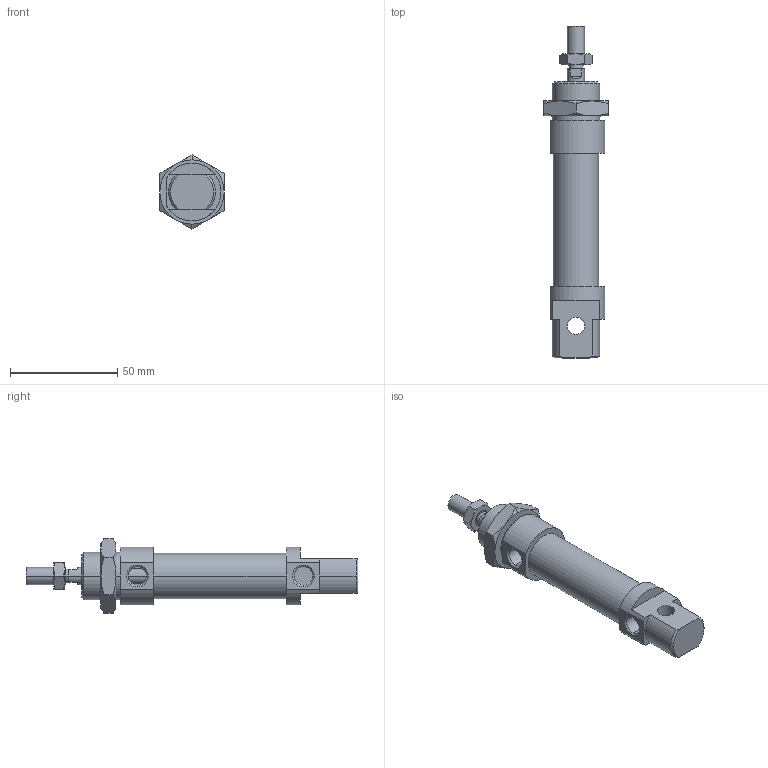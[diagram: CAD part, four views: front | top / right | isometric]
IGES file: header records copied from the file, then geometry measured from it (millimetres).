
Global section: file name: No Iges File Name specified; native system: AutoDesk Inventor R6.0; preprocessor: AutoDesk Inventor Iges Exporter R6.0; author: No Author specified; organization: No Organization specified; date: 20030407.191306; units: millimetre
Bounding box: 30 x 155 x 34.64 mm (x, y, z)
Volume: 53181.5 mm3; surface area: 17453.1 mm2
Topology: 4 solids, 4 shells, 124 faces, 281 edges, 170 vertices
Faces by surface type: plane 41, cone 38, bspline 21, cylinder 18, revolution 6
